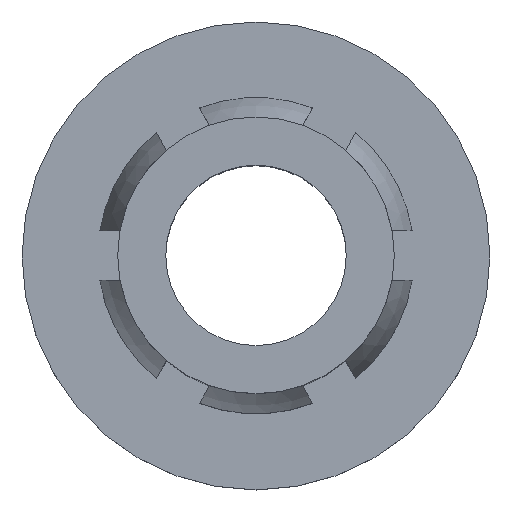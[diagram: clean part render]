
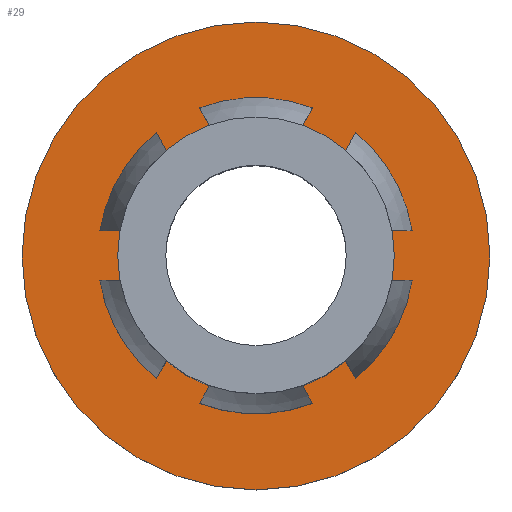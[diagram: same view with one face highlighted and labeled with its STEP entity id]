
A CAD part, top view. The second image highlights one B-rep face of the part: STEP entity #29.
In plain terms, the highlighted planar face has unit normal (0, 0, 1).
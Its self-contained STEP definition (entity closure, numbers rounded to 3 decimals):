
#29 = ADVANCED_FACE ( 'NONE', ( #1189, #274 ), #669, .F. ) ;
#141 = EDGE_CURVE ( 'NONE', #903, #903, #514, .T. ) ;
#274 = FACE_OUTER_BOUND ( 'NONE', #889, .T. ) ;
#310 = EDGE_LOOP ( 'NONE', ( #1507 ) ) ;
#476 = ORIENTED_EDGE ( 'NONE', *, *, #141, .F. ) ;
#481 = DIRECTION ( 'NONE',  ( 0., 0., -1. ) ) ;
#514 = CIRCLE ( 'NONE', #548, 3.759 ) ;
#523 = DIRECTION ( 'NONE',  ( 0., 0., -1. ) ) ;
#548 = AXIS2_PLACEMENT_3D ( 'NONE', #1514, #523, #678 ) ;
#549 = CARTESIAN_POINT ( 'NONE',  ( 13.04, 0., -18.516 ) ) ;
#620 = DIRECTION ( 'NONE',  ( -1., 0., 0. ) ) ;
#643 = DIRECTION ( 'NONE',  ( -1., 0., 0. ) ) ;
#656 = EDGE_CURVE ( 'NONE', #1521, #1521, #728, .T. ) ;
#669 = PLANE ( 'NONE',  #1519 ) ;
#678 = DIRECTION ( 'NONE',  ( -1., 0., 0. ) ) ;
#728 = CIRCLE ( 'NONE', #1442, 2.223 ) ;
#889 = EDGE_LOOP ( 'NONE', ( #476 ) ) ;
#903 = VERTEX_POINT ( 'NONE', #1340 ) ;
#1037 = DIRECTION ( 'NONE',  ( 0., 0., -1. ) ) ;
#1181 = CARTESIAN_POINT ( 'NONE',  ( 9.281, 0., -18.516 ) ) ;
#1189 = FACE_BOUND ( 'NONE', #310, .T. ) ;
#1324 = CARTESIAN_POINT ( 'NONE',  ( 7.058, 0., -18.516 ) ) ;
#1340 = CARTESIAN_POINT ( 'NONE',  ( 5.521, 0., -18.516 ) ) ;
#1442 = AXIS2_PLACEMENT_3D ( 'NONE', #1181, #481, #620 ) ;
#1507 = ORIENTED_EDGE ( 'NONE', *, *, #656, .T. ) ;
#1514 = CARTESIAN_POINT ( 'NONE',  ( 9.281, 0., -18.516 ) ) ;
#1519 = AXIS2_PLACEMENT_3D ( 'NONE', #549, #1037, #643 ) ;
#1521 = VERTEX_POINT ( 'NONE', #1324 ) ;
